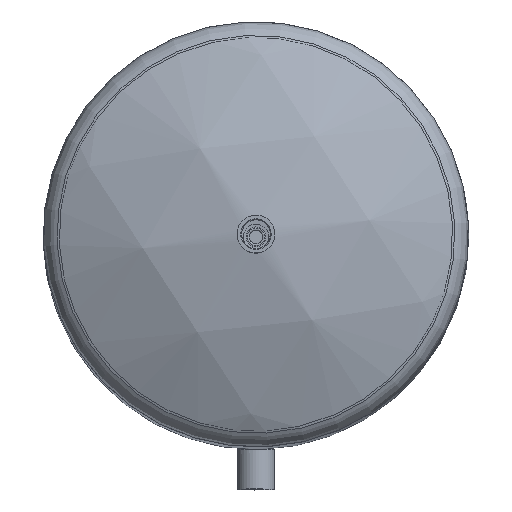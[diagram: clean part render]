
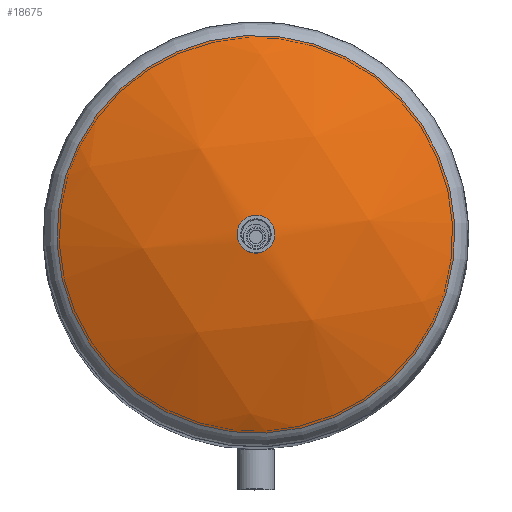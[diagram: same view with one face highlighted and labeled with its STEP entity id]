
A CAD part, top view. The second image highlights one B-rep face of the part: STEP entity #18675.
In plain terms, the highlighted spherical face has radius 455 mm.
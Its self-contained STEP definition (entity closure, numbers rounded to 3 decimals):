
#18252=CARTESIAN_POINT('',(-9.083,12.406,1105.615));
#18253=VERTEX_POINT('',#18252);
#18421=CARTESIAN_POINT('',(0.,-1.519,1105.623));
#18422=DIRECTION('',(0.,-0.001,-1.));
#18423=DIRECTION('',(0.546,-0.838,0.));
#18424=AXIS2_PLACEMENT_3D('',#18421,#18422,#18423);
#18425=CIRCLE('',#18424,16.625);
#18426=EDGE_CURVE('',#18253,#18253,#18425,.T.);
#18649=CARTESIAN_POINT('',(-114.968,174.713,1054.238));
#18650=VERTEX_POINT('',#18649);
#18651=CARTESIAN_POINT('',(0.,-1.548,1054.337));
#18652=DIRECTION('',(0.,0.001,1.));
#18653=DIRECTION('',(-0.546,0.838,0.));
#18654=AXIS2_PLACEMENT_3D('',#18651,#18652,#18653);
#18655=CIRCLE('',#18654,210.441);
#18656=EDGE_CURVE('',#18650,#18650,#18655,.T.);
#18664=CARTESIAN_POINT('',(0.,-1.775,650.927));
#18665=DIRECTION('',(-0.838,-0.546,0.));
#18666=DIRECTION('',(-0.546,0.838,0.));
#18667=AXIS2_PLACEMENT_3D('',#18664,#18665,#18666);
#18668=SPHERICAL_SURFACE('',#18667,455.);
#18669=ORIENTED_EDGE('',*,*,#18426,.T.);
#18670=EDGE_LOOP('',(#18669));
#18671=FACE_OUTER_BOUND('',#18670,.T.);
#18672=ORIENTED_EDGE('',*,*,#18656,.T.);
#18673=EDGE_LOOP('',(#18672));
#18674=FACE_BOUND('',#18673,.T.);
#18675=ADVANCED_FACE('',(#18671,#18674),#18668,.T.);
